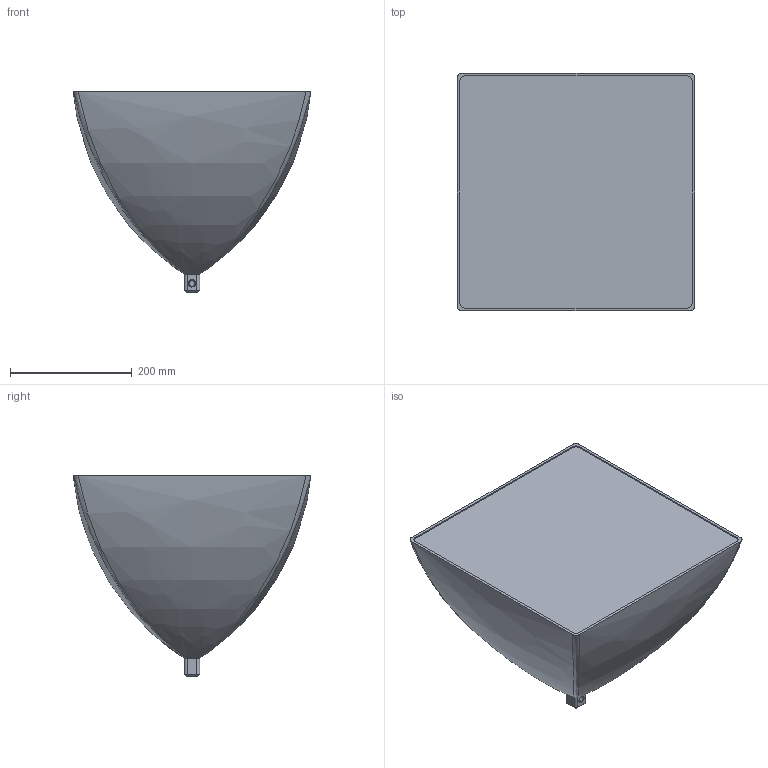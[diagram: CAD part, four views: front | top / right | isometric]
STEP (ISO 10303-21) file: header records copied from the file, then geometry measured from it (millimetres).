
FILE_DESCRIPTION (( 'STEP AP203' ), '1' );
FILE_NAME ('Light.STEP', '2025-03-11T00:33:59', ( '' ), ( '' ), 'SwSTEP 2.0', 'SolidWorks 2024', '' );
FILE_SCHEMA (( 'CONFIG_CONTROL_DESIGN' ));
Length unit declared in the file: millimetre
Products named in the file (1): Light
Bounding box: 390 x 390 x 330 mm (x, y, z)
Volume: 24161578.3 mm3; surface area: 509684.6 mm2
Topology: 1 solids, 1 shells, 42 faces, 96 edges, 58 vertices
Faces by surface type: plane 17, bspline 17, cylinder 6, cone 2
Entity records: 4094 total; most frequent: CARTESIAN_POINT 3187, ORIENTED_EDGE 192, DIRECTION 129, EDGE_CURVE 96, VERTEX_POINT 58, VECTOR 49, LINE 49, EDGE_LOOP 44
